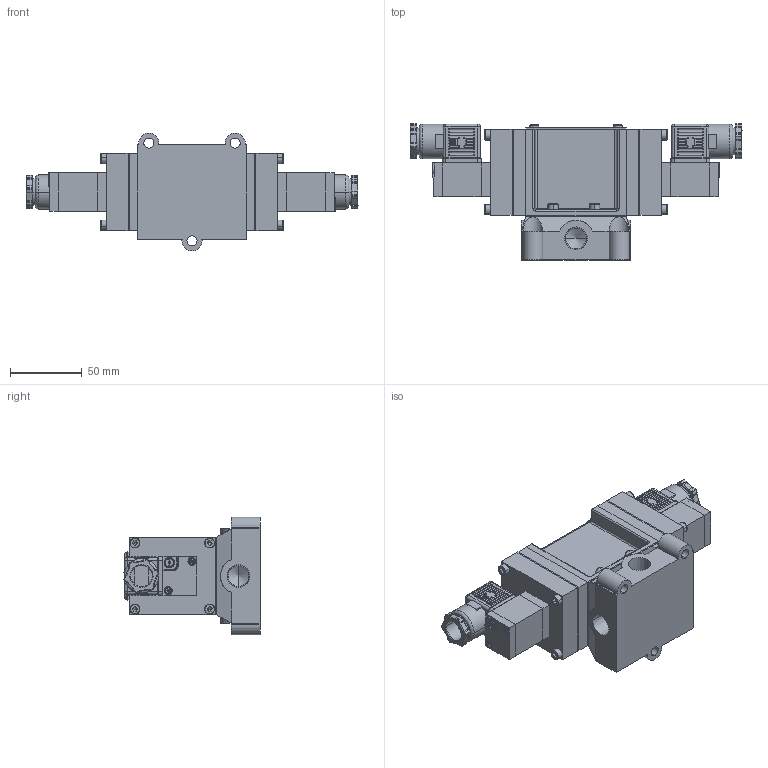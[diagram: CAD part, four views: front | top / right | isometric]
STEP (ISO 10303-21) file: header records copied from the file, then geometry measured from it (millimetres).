
FILE_DESCRIPTION (( 'STEP AP203' ), '1' );
FILE_NAME ('PMD(E)3408#-03-#C#.STEP', '2016-03-09T05:41:03', ( 'Sam Lin' ), ( '' ), 'SwSTEP 2.0', 'SolidWorks 2013', '' );
FILE_SCHEMA (( 'CONFIG_CONTROL_DESIGN' ));
Length unit declared in the file: metre
Products named in the file (17): PM06-C6-M3; PMS2408-4; PM06-C5; PMS2408-5; PMS2306-6(C); PMS2408-7; PMS2408-1(03); PMS2408-8; ISO 4762 M4 x 10; PM08-MARK-2408; PMD(E)3408#-03-#C#; PM06-C3-M4; PMS2408-9; PMS2408-2; PM06-C1; PM06-C4; PMS2408-3
Assembly tree (40 placements, depth 2):
  PMD(E)3408#-03-#C#
    PMS2408-2
    PMS2408-3
    PMS2408-4  x2
    PMS2408-5  x2
    PMS2408-7
    PMS2408-8  x2
    PM08-MARK-2408
    PM06-C3-M4  x4
    PMS2408-9  x2
    PM06-C1  x2
    PM06-C4  x2
    PM06-C6-M3  x4
    PM06-C5  x2
    PMS2306-6(C)  x2
    PMS2408-1(03)
    ISO 4762 M4 x 10  x11
Bounding box: 231 x 94.64 x 82 mm (x, y, z)
Volume: 561460.4 mm3; surface area: 148894.8 mm2
Topology: 46 solids, 46 shells, 1595 faces, 3964 edges, 2265 vertices
Faces by surface type: plane 626, cylinder 439, bspline 396, cone 134
Entity records: 30746 total; most frequent: CARTESIAN_POINT 12338, ORIENTED_EDGE 3392, DIRECTION 3177, EDGE_CURVE 1696, AXIS2_PLACEMENT_3D 1173, VERTEX_POINT 1061, VECTOR 831, LINE 831
